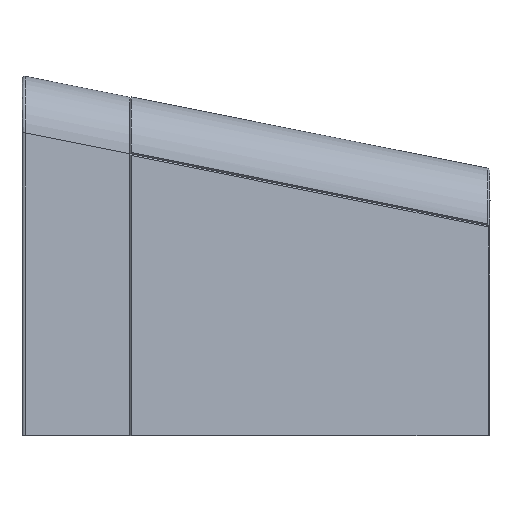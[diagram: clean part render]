
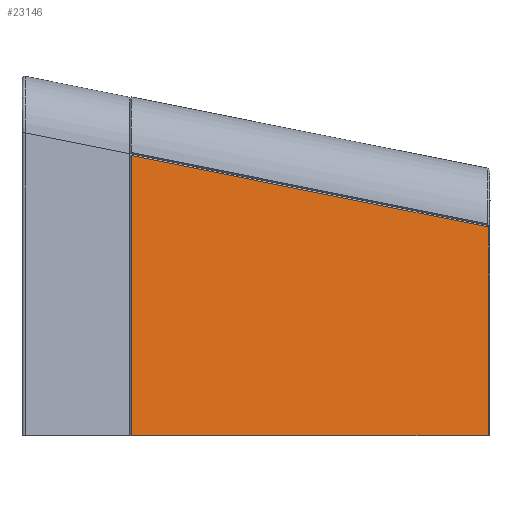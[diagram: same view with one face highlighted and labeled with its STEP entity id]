
A CAD part, left-side view. The second image highlights one B-rep face of the part: STEP entity #23146.
In plain terms, the highlighted planar face has unit normal (-0.981, -0.196, 0) as drawn and (0.981, 0, 0.196) by its records, which use the part's own axes.
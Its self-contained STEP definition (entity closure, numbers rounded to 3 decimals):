
#3689 = CARTESIAN_POINT ( 'NONE',  ( 195.5, -39.932, 497.5 ) ) ;
#3769 = CARTESIAN_POINT ( 'NONE',  ( 195.5, -39.932, 497.5 ) ) ;
#4041 = DIRECTION ( 'NONE',  ( 0., -1., 0. ) ) ;
#6552 = VERTEX_POINT ( 'NONE', #3689 ) ;
#8619 = CARTESIAN_POINT ( 'NONE',  ( 294.667, 250., 1.667 ) ) ;
#12352 = LINE ( 'NONE', #30064, #31935 ) ;
#18676 = VECTOR ( 'NONE', #29783, 1000. ) ;
#18686 = CARTESIAN_POINT ( 'NONE',  ( 294.667, 250., 1.667 ) ) ;
#23146 = ADVANCED_FACE ( 'NONE', ( #23317 ), #67548, .T. ) ;
#23317 = FACE_OUTER_BOUND ( 'NONE', #88921, .T. ) ;
#29783 = DIRECTION ( 'NONE',  ( 0.192, -0.192, -0.962 ) ) ;
#30064 = CARTESIAN_POINT ( 'NONE',  ( 294.667, -690., 1.667 ) ) ;
#31935 = VECTOR ( 'NONE', #4041, 1000. ) ;
#32709 = DIRECTION ( 'NONE',  ( 0.196, 0., -0.981 ) ) ;
#32757 = EDGE_CURVE ( 'NONE', #38016, #98593, #84606, .T. ) ;
#38016 = VERTEX_POINT ( 'NONE', #8619 ) ;
#47201 = LINE ( 'NONE', #88721, #66423 ) ;
#49861 = DIRECTION ( 'NONE',  ( 0.981, 0., 0.196 ) ) ;
#61608 = EDGE_CURVE ( 'NONE', #38016, #95595, #12352, .T. ) ;
#63356 = AXIS2_PLACEMENT_3D ( 'NONE', #83086, #49861, #32709 ) ;
#66423 = VECTOR ( 'NONE', #106452, 1000. ) ;
#67548 = PLANE ( 'NONE',  #63356 ) ;
#68303 = CARTESIAN_POINT ( 'NONE',  ( 195.5, 250., 497.5 ) ) ;
#69248 = LINE ( 'NONE', #3769, #18676 ) ;
#70385 = ORIENTED_EDGE ( 'NONE', *, *, #79110, .T. ) ;
#76929 = CARTESIAN_POINT ( 'NONE',  ( 294.667, -139.099, 1.667 ) ) ;
#79110 = EDGE_CURVE ( 'NONE', #98593, #6552, #47201, .T. ) ;
#79747 = EDGE_CURVE ( 'NONE', #6552, #95595, #69248, .T. ) ;
#83086 = CARTESIAN_POINT ( 'NONE',  ( 295., -690., 0. ) ) ;
#84606 = LINE ( 'NONE', #18686, #84813 ) ;
#84813 = VECTOR ( 'NONE', #86237, 1000. ) ;
#86237 = DIRECTION ( 'NONE',  ( -0.196, 0., 0.981 ) ) ;
#88721 = CARTESIAN_POINT ( 'NONE',  ( 195.5, -690., 497.5 ) ) ;
#88921 = EDGE_LOOP ( 'NONE', ( #104213, #107062, #70385, #108689 ) ) ;
#95595 = VERTEX_POINT ( 'NONE', #76929 ) ;
#98593 = VERTEX_POINT ( 'NONE', #68303 ) ;
#104213 = ORIENTED_EDGE ( 'NONE', *, *, #61608, .F. ) ;
#106452 = DIRECTION ( 'NONE',  ( 0., -1., 0. ) ) ;
#107062 = ORIENTED_EDGE ( 'NONE', *, *, #32757, .T. ) ;
#108689 = ORIENTED_EDGE ( 'NONE', *, *, #79747, .T. ) ;
